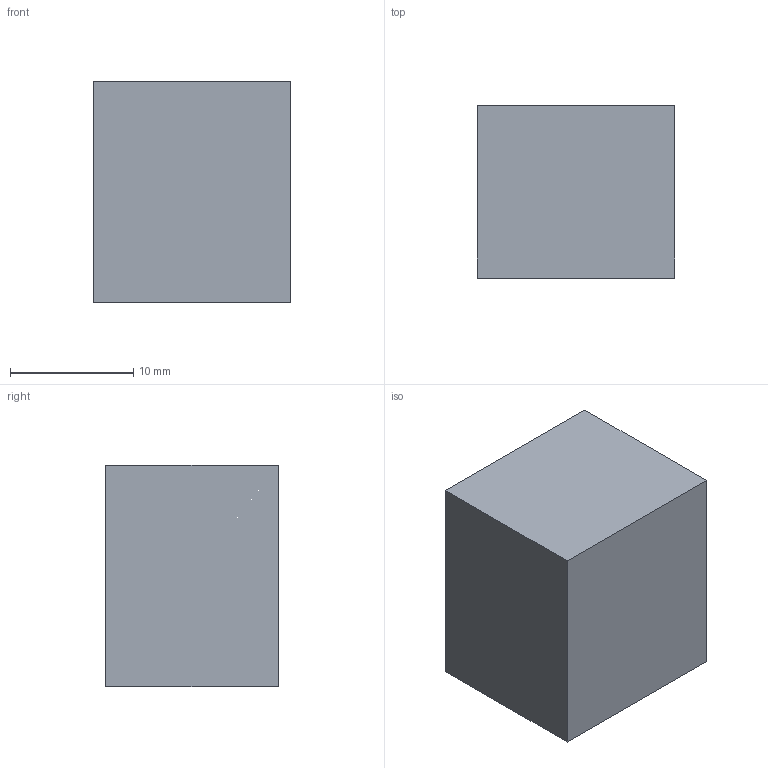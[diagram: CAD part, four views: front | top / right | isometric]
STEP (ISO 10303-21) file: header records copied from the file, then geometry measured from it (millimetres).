
FILE_DESCRIPTION(('Open CASCADE Model'),'2;1');
FILE_NAME('Open CASCADE Shape Model','2026-10-04T01:02:33',('Author'),( 'Open CASCADE'),'Open CASCADE STEP processor 8.0','Open CASCADE 8.0' ,'Unknown');
FILE_SCHEMA(('AUTOMOTIVE_DESIGN { 1 0 10303 214 1 1 1 1 }'));
Length unit declared in the file: millimetre
Products named in the file (1): Open CASCADE STEP translator 8.0 306
Bounding box: 16 x 14 x 18 mm (x, y, z)
Volume: 4032 mm3; surface area: 1528 mm2
Topology: 1 solids, 1 shells, 6 faces, 12 edges, 8 vertices
Faces by surface type: plane 6
Entity records: 322 total; most frequent: CARTESIAN_POINT 51, DIRECTION 50, LINE 36, VECTOR 36, ORIENTED_EDGE 24, PCURVE 24, DEFINITIONAL_REPRESENTATION 24, EDGE_CURVE 12
